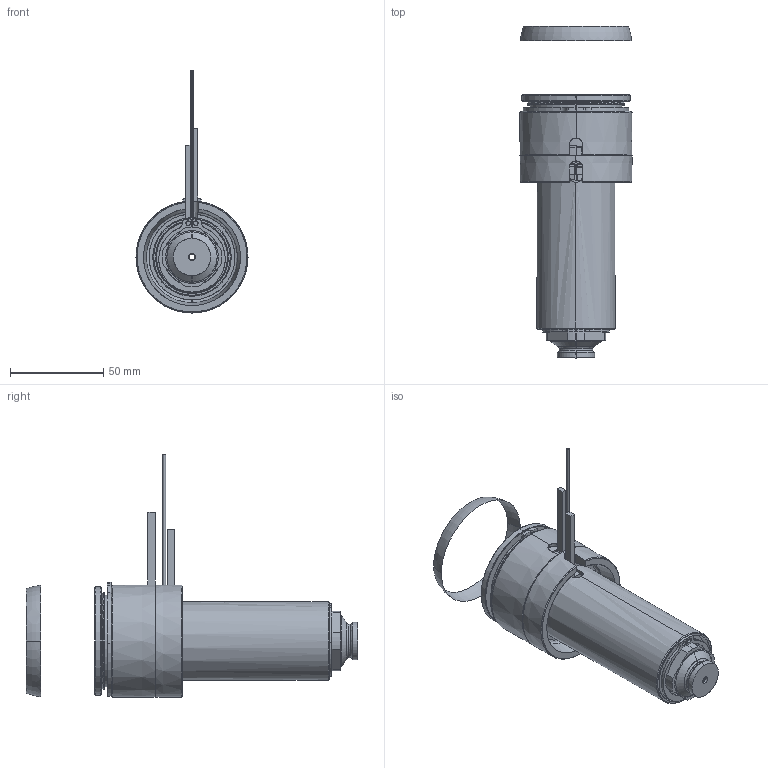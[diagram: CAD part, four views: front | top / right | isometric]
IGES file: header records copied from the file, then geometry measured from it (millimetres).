
Start section: SolidWorks IGES file using analytic representation for surfaces
Global section: file name: C:\Documents and Settings\ws-20\Desktop\TEM\UGER6604-S-A-1 [Øb-3.3 P-0 ØC-15].IGS; native system: SolidWorks 2012; preprocessor: SolidWorks 2012; author: ws-20; date: 120417.115920; units: millimetre
Bounding box: 60 x 177.77 x 129.65 mm (x, y, z)
Surface area: 78097.6 mm2 (no closed solid volume)
Topology: 0 solids, 0 shells, 163 faces, 3094 edges, 3094 vertices
Faces by surface type: revolution 100, bspline 63
